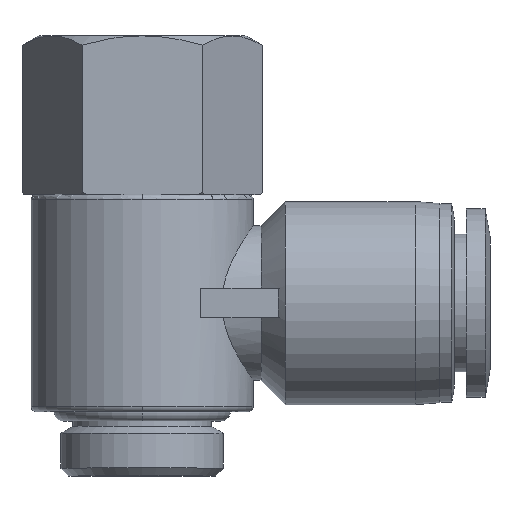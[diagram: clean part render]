
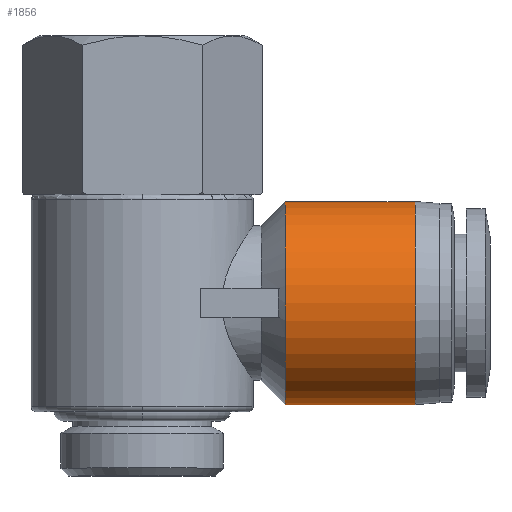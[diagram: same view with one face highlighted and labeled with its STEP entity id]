
A CAD part, top view. The second image highlights one B-rep face of the part: STEP entity #1856.
In plain terms, the highlighted cylindrical face has radius 10.25 mm (diameter 20.5 mm), a partial arc.
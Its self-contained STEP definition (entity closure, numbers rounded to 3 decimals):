
#6 = VERTEX_POINT ( 'NONE', #792 ) ;
#60 = CARTESIAN_POINT ( 'NONE',  ( 21., 28.95, 0. ) ) ;
#108 = VECTOR ( 'NONE', #585, 1000. ) ;
#176 = CARTESIAN_POINT ( 'NONE',  ( 27.55, 28.95, 0. ) ) ;
#269 = CIRCLE ( 'NONE', #1950, 10.25 ) ;
#398 = DIRECTION ( 'NONE',  ( 0., -1., 0. ) ) ;
#502 = CARTESIAN_POINT ( 'NONE',  ( 27.55, 18.7, 0. ) ) ;
#585 = DIRECTION ( 'NONE',  ( -1., 0., 0. ) ) ;
#653 = LINE ( 'NONE', #1572, #1623 ) ;
#655 = CIRCLE ( 'NONE', #896, 10.25 ) ;
#759 = FACE_OUTER_BOUND ( 'NONE', #1980, .T. ) ;
#779 = CARTESIAN_POINT ( 'NONE',  ( 14.45, 28.95, 0. ) ) ;
#792 = CARTESIAN_POINT ( 'NONE',  ( 14.45, 18.7, 0. ) ) ;
#811 = EDGE_CURVE ( 'NONE', #2933, #6, #2894, .T. ) ;
#883 = DIRECTION ( 'NONE',  ( 0., -1., 0. ) ) ;
#884 = EDGE_CURVE ( 'NONE', #1172, #2261, #653, .T. ) ;
#896 = AXIS2_PLACEMENT_3D ( 'NONE', #176, #1776, #398 ) ;
#1084 = DIRECTION ( 'NONE',  ( -1., 0., 0. ) ) ;
#1172 = VERTEX_POINT ( 'NONE', #2677 ) ;
#1183 = EDGE_CURVE ( 'NONE', #2933, #1172, #655, .T. ) ;
#1306 = CARTESIAN_POINT ( 'NONE',  ( 21., 18.7, 0. ) ) ;
#1474 = DIRECTION ( 'NONE',  ( 0., -1., 0. ) ) ;
#1491 = EDGE_CURVE ( 'NONE', #6, #2261, #269, .T. ) ;
#1572 = CARTESIAN_POINT ( 'NONE',  ( 21., 39.2, 0. ) ) ;
#1623 = VECTOR ( 'NONE', #2931, 1000. ) ;
#1700 = CYLINDRICAL_SURFACE ( 'NONE', #1959, 10.25 ) ;
#1701 = ORIENTED_EDGE ( 'NONE', *, *, #884, .T. ) ;
#1776 = DIRECTION ( 'NONE',  ( -1., 0., 0. ) ) ;
#1856 = ADVANCED_FACE ( 'NONE', ( #759 ), #1700, .T. ) ;
#1946 = DIRECTION ( 'NONE',  ( -1., 0., 0. ) ) ;
#1950 = AXIS2_PLACEMENT_3D ( 'NONE', #779, #1084, #883 ) ;
#1959 = AXIS2_PLACEMENT_3D ( 'NONE', #60, #1946, #1474 ) ;
#1980 = EDGE_LOOP ( 'NONE', ( #2869, #1701, #2549, #2157 ) ) ;
#2084 = CARTESIAN_POINT ( 'NONE',  ( 14.45, 39.2, 0. ) ) ;
#2157 = ORIENTED_EDGE ( 'NONE', *, *, #811, .F. ) ;
#2261 = VERTEX_POINT ( 'NONE', #2084 ) ;
#2549 = ORIENTED_EDGE ( 'NONE', *, *, #1491, .F. ) ;
#2677 = CARTESIAN_POINT ( 'NONE',  ( 27.55, 39.2, 0. ) ) ;
#2869 = ORIENTED_EDGE ( 'NONE', *, *, #1183, .T. ) ;
#2894 = LINE ( 'NONE', #1306, #108 ) ;
#2931 = DIRECTION ( 'NONE',  ( -1., 0., 0. ) ) ;
#2933 = VERTEX_POINT ( 'NONE', #502 ) ;
